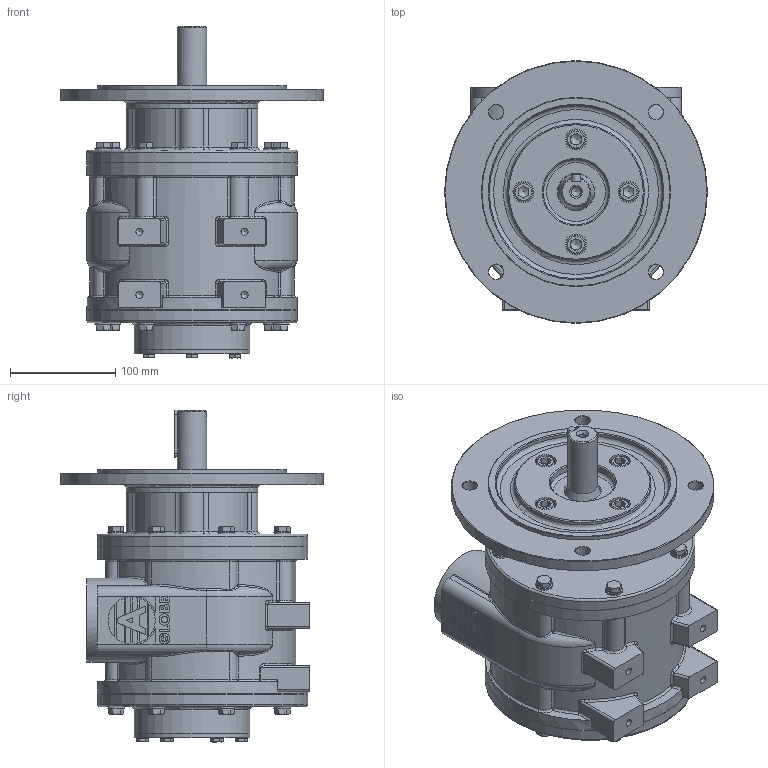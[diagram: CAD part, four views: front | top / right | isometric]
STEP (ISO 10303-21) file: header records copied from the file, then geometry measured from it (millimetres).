
FILE_DESCRIPTION (( 'STEP AP214' ), '1' );
FILE_NAME ('VS12C Defeature + Logo.STEP', '2023-05-23T11:26:34', ( '' ), ( '' ), 'SwSTEP 2.0', 'SolidWorks 2022', '' );
FILE_SCHEMA (( 'AUTOMOTIVE_DESIGN' ));
Length unit declared in the file: millimetre
Products named in the file (1): VS12C Defeature + Logo
Bounding box: 250 x 250 x 315.9 mm (x, y, z)
Volume: 6524702.7 mm3; surface area: 362063.3 mm2
Topology: 1 solids, 17 shells, 1133 faces, 2558 edges, 1498 vertices
Faces by surface type: plane 550, cylinder 228, cone 167, torus 79, bspline 57, sphere 52
Full cylindrical faces by diameter (mm): 6.8 x4, 8 x16, 8.4 x16, 8.5 x1, 10 x6, 13 x16, 14 x4, 16 x16, 18 x4, 20 x4, 28 x1, 35 x1, 35.5 x1, 57.379 x2, 62 x1, 80 x2, 109.5 x1, 110 x2, 125 x1, 130 x1, 165 x1, 180 x1, 198 x2, 200 x4, 250 x1
Entity records: 44167 total; most frequent: CARTESIAN_POINT 15302, DIRECTION 4902, ORIENTED_EDGE 4676, EDGE_CURVE 2338, AXIS2_PLACEMENT_3D 1978, VERTEX_POINT 1464, EDGE_LOOP 1400, FACE_OUTER_BOUND 1249
